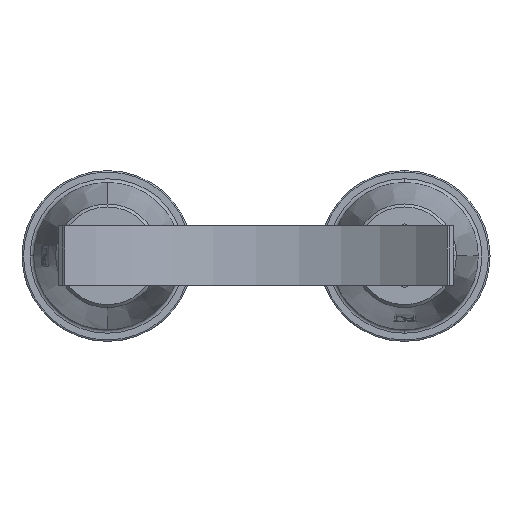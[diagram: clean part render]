
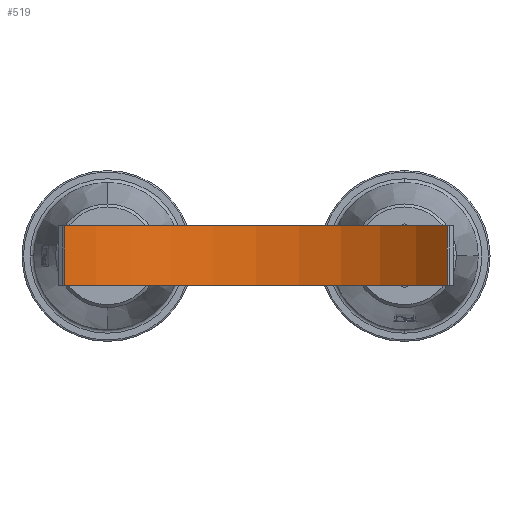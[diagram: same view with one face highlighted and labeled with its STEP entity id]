
A CAD part, top view. The second image highlights one B-rep face of the part: STEP entity #519.
In plain terms, the highlighted cylindrical face has radius 347 mm (diameter 694 mm), a partial arc.
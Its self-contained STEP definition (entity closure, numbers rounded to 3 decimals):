
#519=ADVANCED_FACE('',(#1082),#1083,.F.);
#1082=FACE_OUTER_BOUND('',#1756,.T.);
#1083=CYLINDRICAL_SURFACE('',#1757,347.0);
#1756=EDGE_LOOP('',(#2941,#2942,#2943,#2944));
#1757=AXIS2_PLACEMENT_3D('',#2945,#2946,#2947);
#2941=ORIENTED_EDGE('',*,*,#4179,.T.);
#2942=ORIENTED_EDGE('',*,*,#4180,.F.);
#2943=ORIENTED_EDGE('',*,*,#4181,.F.);
#2944=ORIENTED_EDGE('',*,*,#4176,.T.);
#2945=CARTESIAN_POINT('',(220.837,202.55,583.634));
#2946=DIRECTION('',(0.,-1.0,0.));
#2947=DIRECTION('',(1.0,0.,0.));
#4176=EDGE_CURVE('',#5022,#5020,#5023,.T.);
#4179=EDGE_CURVE('',#5020,#5026,#5027,.T.);
#4180=EDGE_CURVE('',#5028,#5026,#5029,.T.);
#4181=EDGE_CURVE('',#5022,#5028,#5030,.T.);
#5020=VERTEX_POINT('',#6713);
#5022=VERTEX_POINT('',#6716);
#5023=LINE('',#6717,#6718);
#5026=VERTEX_POINT('',#6722);
#5027=CIRCLE('',#6723,347.0);
#5028=VERTEX_POINT('',#6724);
#5029=LINE('',#6725,#6726);
#5030=CIRCLE('',#6727,347.0);
#6713=CARTESIAN_POINT('',(-36.674,122.55,351.046));
#6716=CARTESIAN_POINT('',(-36.674,202.55,351.046));
#6717=CARTESIAN_POINT('',(-36.674,202.55,351.046));
#6718=VECTOR('',#8547,1.0);
#6722=CARTESIAN_POINT('',(478.122,122.55,350.796));
#6723=AXIS2_PLACEMENT_3D('',#8549,#8550,#8551);
#6724=CARTESIAN_POINT('',(478.122,202.55,350.796));
#6725=CARTESIAN_POINT('',(478.122,202.55,350.796));
#6726=VECTOR('',#8552,1.0);
#6727=AXIS2_PLACEMENT_3D('',#8553,#8554,#8555);
#8547=DIRECTION('',(0.,-1.0,0.));
#8549=CARTESIAN_POINT('',(220.837,122.55,583.634));
#8550=DIRECTION('',(0.,-1.0,0.));
#8551=DIRECTION('',(1.0,0.,0.));
#8552=DIRECTION('',(0.,-1.0,0.));
#8553=CARTESIAN_POINT('',(220.837,202.55,583.634));
#8554=DIRECTION('',(0.,-1.0,0.));
#8555=DIRECTION('',(1.0,0.,0.));
